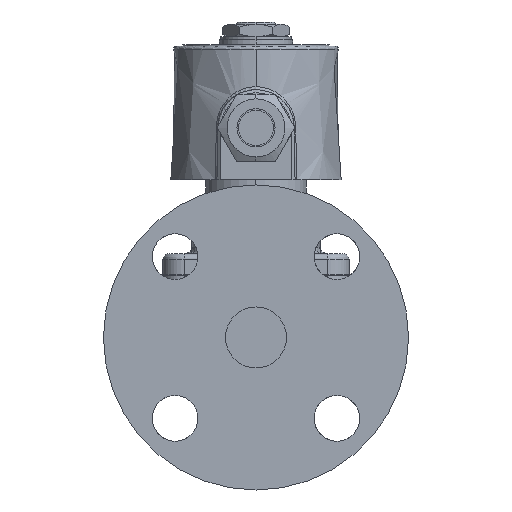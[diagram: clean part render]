
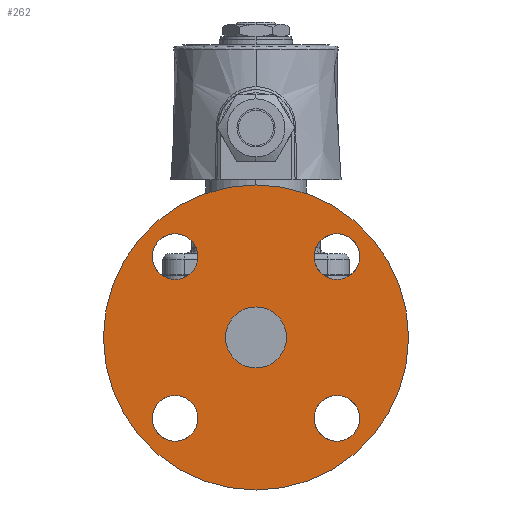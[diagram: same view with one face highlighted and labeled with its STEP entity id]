
A CAD part, left-side view. The second image highlights one B-rep face of the part: STEP entity #262.
In plain terms, the highlighted planar face has unit normal (-1, 0, 0).
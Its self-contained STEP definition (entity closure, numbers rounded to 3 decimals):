
#262=ADVANCED_FACE('',(#2602,#2603,#2604,#2605,#2606,#2607),#2601,.F.);
#2601=PLANE('',#6233);
#2602=FACE_OUTER_BOUND('',#6234,.T.);
#2603=FACE_BOUND('',#6235,.T.);
#2604=FACE_BOUND('',#6236,.T.);
#2605=FACE_BOUND('',#6237,.T.);
#2606=FACE_BOUND('',#6238,.T.);
#2607=FACE_BOUND('',#6239,.T.);
#6230=CARTESIAN_POINT('',(-65.,-96.603,60.));
#6231=DIRECTION('',(1.,0.,0.));
#6232=DIRECTION('',(0.,0.,-1.));
#6233=AXIS2_PLACEMENT_3D('',#6230,#6231,#6232);
#6234=EDGE_LOOP('',(#8219,#8220));
#6235=EDGE_LOOP('',(#8221,#8222,#8223));
#6236=EDGE_LOOP('',(#8224,#8225,#8226));
#6237=EDGE_LOOP('',(#8227,#8228,#8229));
#6238=EDGE_LOOP('',(#8230,#8231));
#6239=EDGE_LOOP('',(#8232,#8233,#8234));
#8219=ORIENTED_EDGE('',*,*,#9347,.T.);
#8220=ORIENTED_EDGE('',*,*,#9348,.T.);
#8221=ORIENTED_EDGE('',*,*,#9349,.F.);
#8222=ORIENTED_EDGE('',*,*,#9350,.F.);
#8223=ORIENTED_EDGE('',*,*,#9351,.F.);
#8224=ORIENTED_EDGE('',*,*,#9352,.F.);
#8225=ORIENTED_EDGE('',*,*,#9353,.F.);
#8226=ORIENTED_EDGE('',*,*,#9354,.F.);
#8227=ORIENTED_EDGE('',*,*,#9355,.F.);
#8228=ORIENTED_EDGE('',*,*,#9356,.F.);
#8229=ORIENTED_EDGE('',*,*,#9357,.F.);
#8230=ORIENTED_EDGE('',*,*,#9358,.F.);
#8231=ORIENTED_EDGE('',*,*,#9359,.F.);
#8232=ORIENTED_EDGE('',*,*,#9360,.F.);
#8233=ORIENTED_EDGE('',*,*,#9361,.F.);
#8234=ORIENTED_EDGE('',*,*,#9362,.F.);
#9347=EDGE_CURVE('',#13684,#13685,#13686,.T.);
#9348=EDGE_CURVE('',#13685,#13684,#13692,.T.);
#9349=EDGE_CURVE('',#13698,#13699,#13700,.T.);
#9350=EDGE_CURVE('',#13706,#13698,#13707,.T.);
#9351=EDGE_CURVE('',#13699,#13706,#13713,.T.);
#9352=EDGE_CURVE('',#13719,#13720,#13721,.T.);
#9353=EDGE_CURVE('',#13727,#13719,#13728,.T.);
#9354=EDGE_CURVE('',#13720,#13727,#13734,.T.);
#9355=EDGE_CURVE('',#13740,#13741,#13742,.T.);
#9356=EDGE_CURVE('',#13748,#13740,#13749,.T.);
#9357=EDGE_CURVE('',#13741,#13748,#13755,.T.);
#9358=EDGE_CURVE('',#13761,#13762,#13763,.T.);
#9359=EDGE_CURVE('',#13762,#13761,#13769,.T.);
#9360=EDGE_CURVE('',#13775,#13776,#13777,.T.);
#9361=EDGE_CURVE('',#13783,#13775,#13784,.T.);
#9362=EDGE_CURVE('',#13776,#13783,#13790,.T.);
#13684=VERTEX_POINT('',#18481);
#13685=VERTEX_POINT('',#18482);
#13686=CIRCLE('',#18486,50.);
#13692=CIRCLE('',#18490,50.);
#13698=VERTEX_POINT('',#18491);
#13699=VERTEX_POINT('',#18492);
#13700=CIRCLE('',#18496,7.5);
#13706=VERTEX_POINT('',#18497);
#13707=CIRCLE('',#18501,7.5);
#13713=CIRCLE('',#18505,7.5);
#13719=VERTEX_POINT('',#18506);
#13720=VERTEX_POINT('',#18507);
#13721=CIRCLE('',#18511,7.5);
#13727=VERTEX_POINT('',#18512);
#13728=CIRCLE('',#18516,7.5);
#13734=CIRCLE('',#18520,7.5);
#13740=VERTEX_POINT('',#18521);
#13741=VERTEX_POINT('',#18522);
#13742=CIRCLE('',#18526,7.5);
#13748=VERTEX_POINT('',#18527);
#13749=CIRCLE('',#18531,7.5);
#13755=CIRCLE('',#18535,7.5);
#13761=VERTEX_POINT('',#18536);
#13762=VERTEX_POINT('',#18537);
#13763=CIRCLE('',#18541,10.);
#13769=CIRCLE('',#18545,10.);
#13775=VERTEX_POINT('',#18546);
#13776=VERTEX_POINT('',#18547);
#13777=CIRCLE('',#18551,7.5);
#13783=VERTEX_POINT('',#18552);
#13784=CIRCLE('',#18556,7.5);
#13790=CIRCLE('',#18560,7.5);
#18481=CARTESIAN_POINT('',(-65.,0.,50.));
#18482=CARTESIAN_POINT('',(-65.,0.,-50.));
#18483=CARTESIAN_POINT('',(-65.,0.,0.));
#18484=DIRECTION('',(-1.,0.,0.));
#18485=DIRECTION('',(0.,0.,1.));
#18486=AXIS2_PLACEMENT_3D('',#18483,#18484,#18485);
#18487=CARTESIAN_POINT('',(-65.,0.,0.));
#18488=DIRECTION('',(-1.,0.,0.));
#18489=DIRECTION('',(0.,0.,1.));
#18490=AXIS2_PLACEMENT_3D('',#18487,#18488,#18489);
#18491=CARTESIAN_POINT('',(-65.,26.517,-34.017));
#18492=CARTESIAN_POINT('',(-65.,19.017,-26.517));
#18493=CARTESIAN_POINT('',(-65.,26.517,-26.517));
#18494=DIRECTION('',(-1.,0.,0.));
#18495=DIRECTION('',(0.,-1.,0.));
#18496=AXIS2_PLACEMENT_3D('',#18493,#18494,#18495);
#18497=CARTESIAN_POINT('',(-65.,26.517,-19.017));
#18498=CARTESIAN_POINT('',(-65.,26.517,-26.517));
#18499=DIRECTION('',(-1.,0.,0.));
#18500=DIRECTION('',(0.,-1.,0.));
#18501=AXIS2_PLACEMENT_3D('',#18498,#18499,#18500);
#18502=CARTESIAN_POINT('',(-65.,26.517,-26.517));
#18503=DIRECTION('',(-1.,0.,0.));
#18504=DIRECTION('',(0.,-1.,0.));
#18505=AXIS2_PLACEMENT_3D('',#18502,#18503,#18504);
#18506=CARTESIAN_POINT('',(-65.,-26.517,-34.017));
#18507=CARTESIAN_POINT('',(-65.,-34.017,-26.517));
#18508=CARTESIAN_POINT('',(-65.,-26.517,-26.517));
#18509=DIRECTION('',(-1.,0.,0.));
#18510=DIRECTION('',(0.,-1.,0.));
#18511=AXIS2_PLACEMENT_3D('',#18508,#18509,#18510);
#18512=CARTESIAN_POINT('',(-65.,-26.516,-19.017));
#18513=CARTESIAN_POINT('',(-65.,-26.517,-26.517));
#18514=DIRECTION('',(-1.,0.,0.));
#18515=DIRECTION('',(0.,-1.,0.));
#18516=AXIS2_PLACEMENT_3D('',#18513,#18514,#18515);
#18517=CARTESIAN_POINT('',(-65.,-26.517,-26.517));
#18518=DIRECTION('',(-1.,0.,0.));
#18519=DIRECTION('',(0.,-1.,0.));
#18520=AXIS2_PLACEMENT_3D('',#18517,#18518,#18519);
#18521=CARTESIAN_POINT('',(-65.,-26.517,19.017));
#18522=CARTESIAN_POINT('',(-65.,-34.017,26.517));
#18523=CARTESIAN_POINT('',(-65.,-26.517,26.517));
#18524=DIRECTION('',(-1.,0.,0.));
#18525=DIRECTION('',(0.,-1.,0.));
#18526=AXIS2_PLACEMENT_3D('',#18523,#18524,#18525);
#18527=CARTESIAN_POINT('',(-65.,-26.516,34.017));
#18528=CARTESIAN_POINT('',(-65.,-26.517,26.517));
#18529=DIRECTION('',(-1.,0.,0.));
#18530=DIRECTION('',(0.,-1.,0.));
#18531=AXIS2_PLACEMENT_3D('',#18528,#18529,#18530);
#18532=CARTESIAN_POINT('',(-65.,-26.517,26.517));
#18533=DIRECTION('',(-1.,0.,0.));
#18534=DIRECTION('',(0.,-1.,0.));
#18535=AXIS2_PLACEMENT_3D('',#18532,#18533,#18534);
#18536=CARTESIAN_POINT('',(-65.,0.,-10.));
#18537=CARTESIAN_POINT('',(-65.,0.,10.));
#18538=CARTESIAN_POINT('',(-65.,0.,0.));
#18539=DIRECTION('',(-1.,0.,0.));
#18540=DIRECTION('',(0.,0.,1.));
#18541=AXIS2_PLACEMENT_3D('',#18538,#18539,#18540);
#18542=CARTESIAN_POINT('',(-65.,0.,0.));
#18543=DIRECTION('',(-1.,0.,0.));
#18544=DIRECTION('',(0.,0.,1.));
#18545=AXIS2_PLACEMENT_3D('',#18542,#18543,#18544);
#18546=CARTESIAN_POINT('',(-65.,26.517,19.017));
#18547=CARTESIAN_POINT('',(-65.,19.017,26.517));
#18548=CARTESIAN_POINT('',(-65.,26.517,26.517));
#18549=DIRECTION('',(-1.,0.,0.));
#18550=DIRECTION('',(0.,-1.,0.));
#18551=AXIS2_PLACEMENT_3D('',#18548,#18549,#18550);
#18552=CARTESIAN_POINT('',(-65.,26.517,34.017));
#18553=CARTESIAN_POINT('',(-65.,26.517,26.517));
#18554=DIRECTION('',(-1.,0.,0.));
#18555=DIRECTION('',(0.,-1.,0.));
#18556=AXIS2_PLACEMENT_3D('',#18553,#18554,#18555);
#18557=CARTESIAN_POINT('',(-65.,26.517,26.517));
#18558=DIRECTION('',(-1.,0.,0.));
#18559=DIRECTION('',(0.,-1.,0.));
#18560=AXIS2_PLACEMENT_3D('',#18557,#18558,#18559);
